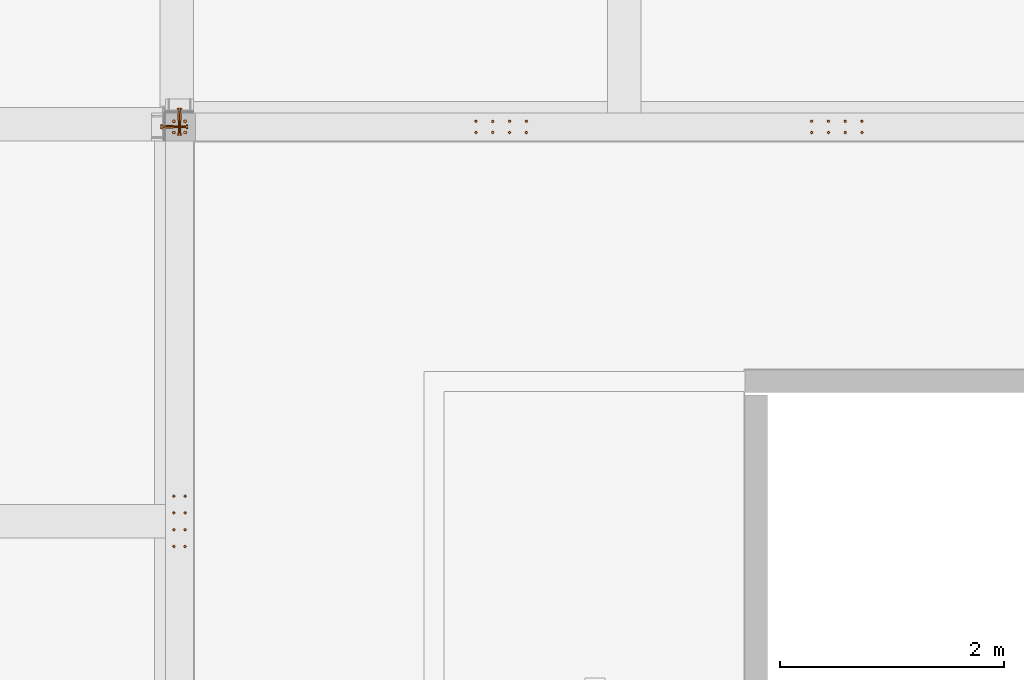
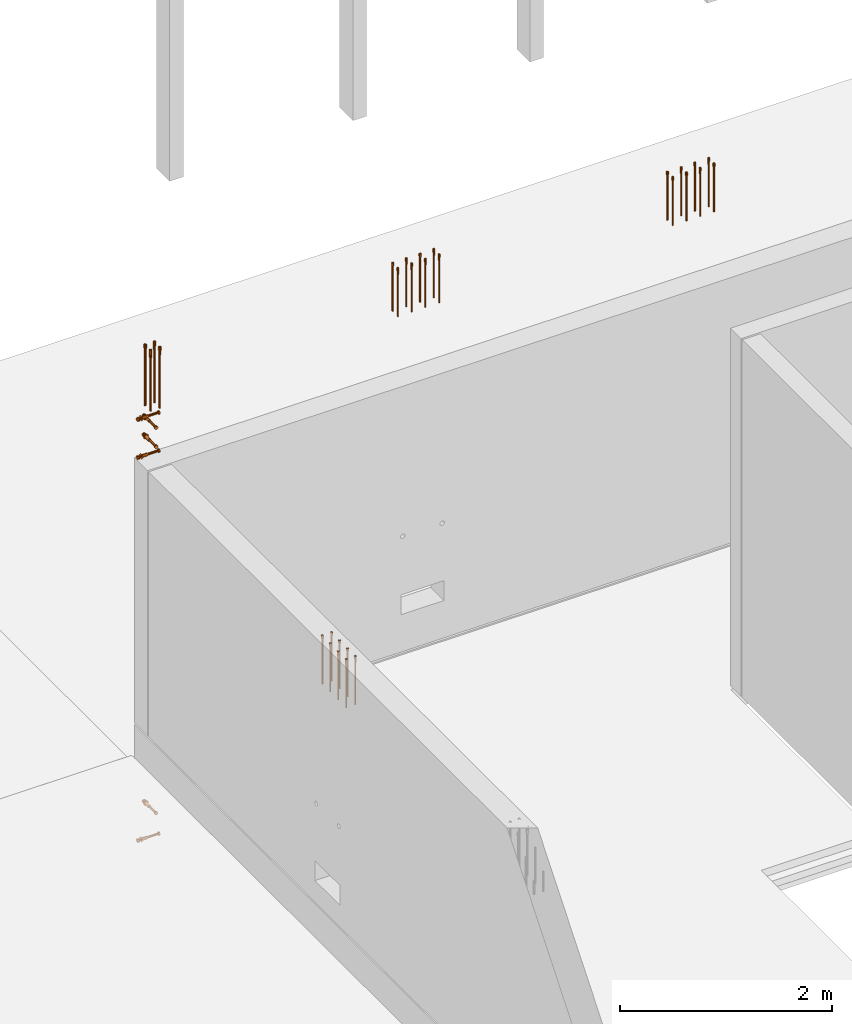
# One storey, part 15 of 16: 34 proxies.
"""IFC2X3 building model written with IfcOpenShell, lengths in millimetres."""

from ifc_helpers import new_model, entity, si_unit, converted_unit, derived_unit, direction, frame, frame_2d, origin, place, context, subcontext, project, spatial, polyline, circle, outline, extrude, faceted_brep, source, transform, mapped, material, type_object, type_shapes, element, save


model = new_model("IFC2X3")

# Units and contexts
model_context = context("Model", 3, precision=0.01, world=origin(), true_north=direction((6.12303176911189e-17, 1.0)))
body_context = subcontext(model_context, "Body", "Model", "MODEL_VIEW")
ifc_project = project(units=[si_unit("LENGTHUNIT", "METRE", prefix="MILLI"), si_unit("AREAUNIT", "SQUARE_METRE"), si_unit("VOLUMEUNIT", "CUBIC_METRE"), converted_unit("PLANEANGLEUNIT", "DEGREE", entity("IfcRatioMeasure", 0.0174532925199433), si_unit("PLANEANGLEUNIT", "RADIAN"), dimensions=[0, 0, 0, 0, 0, 0, 0]), si_unit("MASSUNIT", "GRAM", prefix="KILO"), derived_unit("MASSDENSITYUNIT", [(si_unit("MASSUNIT", "GRAM", prefix="KILO"), 1), (si_unit("LENGTHUNIT", "METRE"), -3)]), si_unit("TIMEUNIT", "SECOND"), si_unit("FREQUENCYUNIT", "HERTZ"), si_unit("THERMODYNAMICTEMPERATUREUNIT", "DEGREE_CELSIUS"), derived_unit("THERMALTRANSMITTANCEUNIT", [(si_unit("MASSUNIT", "GRAM", prefix="KILO"), 1), (si_unit("THERMODYNAMICTEMPERATUREUNIT", "KELVIN"), -1), (si_unit("TIMEUNIT", "SECOND"), -3)]), derived_unit("VOLUMETRICFLOWRATEUNIT", [(si_unit("LENGTHUNIT", "METRE"), 3), (si_unit("TIMEUNIT", "SECOND"), -1)]), si_unit("ELECTRICCURRENTUNIT", "AMPERE"), si_unit("ELECTRICVOLTAGEUNIT", "VOLT"), si_unit("POWERUNIT", "WATT"), si_unit("FORCEUNIT", "NEWTON", prefix="KILO"), si_unit("ILLUMINANCEUNIT", "LUX"), si_unit("LUMINOUSFLUXUNIT", "LUMEN"), si_unit("LUMINOUSINTENSITYUNIT", "CANDELA"), derived_unit("USERDEFINED", [(si_unit("MASSUNIT", "GRAM", prefix="KILO"), -1), (si_unit("LENGTHUNIT", "METRE"), -2), (si_unit("TIMEUNIT", "SECOND"), 3), (si_unit("LUMINOUSFLUXUNIT", "LUMEN"), 1)]), derived_unit("LINEARVELOCITYUNIT", [(si_unit("LENGTHUNIT", "METRE"), 1), (si_unit("TIMEUNIT", "SECOND"), -1)]), si_unit("PRESSUREUNIT", "PASCAL"), derived_unit("USERDEFINED", [(si_unit("LENGTHUNIT", "METRE"), -2), (si_unit("MASSUNIT", "GRAM", prefix="KILO"), 1), (si_unit("TIMEUNIT", "SECOND"), -2)])], contexts=[model_context])

# Site, building, storey
site_placement = place(None, origin())
site = spatial("IfcSite", under=ifc_project, at=site_placement, Name="Default", CompositionType="ELEMENT")
building_placement = place(site_placement, origin())
building = spatial("IfcBuilding", under=site, at=building_placement, Name="niet gebruiken", CompositionType="ELEMENT")
storey_placement = place(building_placement, frame((0.0, 0.0, 183150.0)))
storey = spatial("IfcBuildingStorey", under=building, at=storey_placement, Name="58 achtenvijftigste verdieping", CompositionType="ELEMENT", Elevation=183150.0)

# Proxies
building_element_proxy_type_1 = type_object("IfcBuildingElementProxyType", Name="Ø16/M20x560", PredefinedType="NOTDEFINED")
shared_shape_1 = source(origin(), body_context, "Body", "SolidModel", [
    extrude(circle(Radius=8.0, at=frame_2d((4.22994972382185e-15, -1.29243565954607e-14), x_axis=(1.0, 0.0))), frame((34.9769027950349, 0.0, -560.0)), (0.0, 0.0, 1.0), 489.0),
    extrude(circle(Radius=8.0, at=frame_2d((4.22994972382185e-15, -1.29243565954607e-14), x_axis=(1.0, 0.0))), frame((34.9769027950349, 0.0, -560.0)), (0.0, 0.0, 1.0), 489.0),
    faceted_brep([(30.380708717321, 11.0961940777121, 0.0), (32.6788057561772, 12.0480970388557, 0.0), (34.9769027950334, 13.0, 0.0), (34.9769027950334, 13.0, -33.0), (32.6788057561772, 12.0480970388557, -33.0), (30.380708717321, 11.0961940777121, -33.0), (28.0826116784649, 10.1442911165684, -33.0), (25.7845146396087, 9.1923881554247, -33.0), (25.7845146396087, 9.1923881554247, 0.0), (28.0826116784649, 10.1442911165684, 0.0), (47.0249998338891, 2.29809703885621, 0.0), (47.9769027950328, 0.0, 0.0), (47.9769027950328, 0.0, -33.0), (47.1698993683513, 1.94827861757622, -33.0), (46.0730968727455, 4.59619407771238, -33.0), (45.1211939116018, 6.89429111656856, -33.0), (44.1692909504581, 9.19238815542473, -33.0), (44.1692909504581, 9.19238815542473, 0.0), (45.1211939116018, 6.89429111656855, 0.0), (46.0730968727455, 4.59619407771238, 0.0), (23.5909096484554, 3.89655723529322, -33.0), (21.976902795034, 0.0, -33.0), (21.976902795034, 0.0, 0.0), (22.9288057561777, 2.29809703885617, 0.0), (23.8807087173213, 4.59619407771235, 0.0), (24.832611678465, 6.89429111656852, 0.0), (24.6877121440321, 6.54447269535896, -33.0), (39.5730968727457, 11.0961940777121, 0.0), (41.8711939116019, 10.1442911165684, 0.0), (41.8711939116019, 10.1442911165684, -33.0), (39.5730968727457, 11.0961940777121, -33.0), (37.2749998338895, 12.0480970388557, -33.0), (37.2749998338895, 12.0480970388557, 0.0), (46.3628959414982, -3.89655723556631, 0.0), (45.2660934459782, -6.54447269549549, 0.0), (44.1692909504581, -9.19238815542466, 0.0), (44.1692909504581, -9.19238815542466, -33.0), (45.1211939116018, -6.89429111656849, -33.0), (46.0730968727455, -4.59619407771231, -33.0), (47.0249998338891, -2.29809703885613, -33.0), (30.3807087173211, -11.0961940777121, 0.0), (28.0826116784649, -10.1442911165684, 0.0), (25.7845146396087, -9.19238815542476, 0.0), (25.7845146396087, -9.19238815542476, -33.0), (28.0826116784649, -10.1442911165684, -33.0), (30.3807087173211, -11.0961940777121, -33.0), (32.6788057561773, -12.0480970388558, -33.0), (34.9769027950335, -13.0, -33.0), (34.9769027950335, -13.0, 0.0), (32.6788057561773, -12.0480970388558, 0.0), (37.2749998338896, -12.0480970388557, -33.0), (39.5730968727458, -11.096194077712, -33.0), (41.871193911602, -10.1442911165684, -33.0), (41.871193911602, -10.1442911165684, 0.0), (39.5730968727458, -11.096194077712, 0.0), (37.2749998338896, -12.0480970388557, 0.0), (24.832611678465, -6.89429111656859, 0.0), (23.8807087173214, -4.59619407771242, 0.0), (22.9288057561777, -2.29809703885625, 0.0), (22.7839062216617, -1.94827861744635, -33.0), (23.8807087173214, -4.59619407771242, -33.0), (24.832611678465, -6.89429111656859, -33.0), (24.476902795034, 0.0, -38.0), (29.7269027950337, 9.09326673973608, -38.0), (40.2269027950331, 9.0932667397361, -38.0), (45.4769027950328, 0.0, -38.0), (40.2269027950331, -9.09326673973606, -38.0), (29.7269027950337, -9.09326673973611, -38.0), (29.7269027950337, 9.09326673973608, -71.0), (24.476902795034, 0.0, -71.0), (40.2269027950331, 9.0932667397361, -71.0), (45.4769027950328, 0.0, -71.0), (40.2269027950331, -9.09326673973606, -71.0), (29.7269027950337, -9.09326673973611, -71.0), (34.9769027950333, 0.0, -71.0), (34.9769027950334, 0.0, -33.0), (45.4769027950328, 0.0, -33.0), (40.2269027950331, 9.0932667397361, -33.0), (29.7269027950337, 9.09326673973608, -33.0), (24.476902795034, 0.0, -33.0), (40.2269027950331, -9.09326673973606, -33.0), (29.7269027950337, -9.09326673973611, -33.0), (29.7269027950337, 9.09326673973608, 0.0), (24.476902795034, 0.0, 0.0), (40.2269027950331, 9.0932667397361, 0.0), (45.4769027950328, 0.0, 0.0), (40.2269027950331, -9.09326673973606, 0.0), (29.7269027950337, -9.09326673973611, 0.0)], [[[0, 1, 2, 3, 4, 5, 6, 7, 8, 9]], [[10, 11, 12, 13, 14, 15, 16, 17, 18, 19]], [[20, 21, 22, 23, 24, 25, 8, 7, 26]], [[27, 28, 17, 16, 29, 30, 31, 3, 2, 32]], [[33, 34, 35, 36, 37, 38, 39, 12, 11]], [[40, 41, 42, 43, 44, 45, 46, 47, 48, 49]], [[48, 47, 50, 51, 52, 36, 35, 53, 54, 55]], [[43, 42, 56, 57, 58, 22, 21, 59, 60, 61]], [[62, 21, 20, 26, 7]], [[63, 62, 7]], [[63, 7, 6, 5, 4, 3]], [[64, 3, 31, 30, 29, 16]], [[16, 65, 64]], [[65, 16, 15, 14, 13, 12]], [[3, 64, 63]], [[65, 12, 39, 38, 37, 36]], [[66, 65, 36]], [[66, 36, 52, 51, 50, 47]], [[67, 47, 46, 45, 44, 43]], [[43, 62, 67]], [[62, 43, 61, 60, 59, 21]], [[47, 67, 66]], [[62, 63, 68, 69]], [[63, 64, 70, 68]], [[64, 65, 71, 70]], [[65, 66, 72, 71]], [[66, 67, 73, 72]], [[67, 62, 69, 73]], [[70, 71, 74]], [[74, 68, 70]], [[71, 72, 74]], [[73, 74, 72]], [[74, 73, 69]], [[74, 69, 68]], [[75, 76, 77]], [[77, 78, 75]], [[78, 79, 75]], [[75, 80, 76]], [[79, 81, 75]], [[80, 75, 81]], [[78, 82, 83, 79]], [[78, 77, 84, 82]], [[76, 85, 84, 77]], [[80, 86, 85, 76]], [[80, 81, 87, 86]], [[79, 83, 87, 81]], [[85, 11, 10]], [[85, 10, 19]], [[85, 19, 18]], [[85, 18, 17]], [[85, 17, 84]], [[85, 33, 11]], [[85, 34, 33]], [[85, 35, 34]], [[85, 86, 35]], [[86, 53, 35]], [[86, 54, 53]], [[86, 55, 54]], [[86, 48, 55]], [[48, 86, 87]], [[87, 49, 48]], [[87, 40, 49]], [[87, 41, 40]], [[87, 42, 41]], [[87, 83, 42]], [[83, 56, 42]], [[83, 57, 56]], [[83, 58, 57]], [[83, 22, 58]], [[83, 23, 22]], [[83, 24, 23]], [[83, 25, 24]], [[83, 8, 25]], [[83, 82, 8]], [[82, 84, 2]], [[82, 2, 1]], [[82, 1, 0]], [[82, 0, 9]], [[82, 9, 8]], [[84, 17, 28]], [[84, 28, 27]], [[84, 27, 32]], [[84, 32, 2]]]),
])
type_shapes(building_element_proxy_type_1, [shared_shape_1])
for number, where in (
    (1, (138640.023097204, 24625.0, 4420.0)),
    (2, (138790.023097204, 24625.0, 4420.0)),
    (3, (138640.023097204, 24525.0, 4420.0)),
    (4, (138790.023097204, 24525.0, 4420.0)),
    (5, (141640.023097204, 24625.0, 4420.0)),
    (6, (141790.023097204, 24625.0, 4420.0)),
    (7, (141640.023097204, 24525.0, 4420.0)),
    (8, (141790.023097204, 24525.0, 4420.0)),
):
    element("IfcBuildingElementProxy", number, at=place(storey_placement, frame(where)), inside=storey, type_object=building_element_proxy_type_1, Name="GM_Stekanker_DEMU_4010 GV:Ø16/M20x560", ObjectType="Ø16/M20x560", context=body_context, shape_type="MappedRepresentation", body=[
        mapped(shared_shape_1, transform((0.0, 0.0, 0.0), scale=1.0)),
    ])
for number, where, z_axis, x_axis in (
    (9, (135825.0, 20940.023097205, 3095.0), (0.0, 0.0, 1.0), (0.0, 1.0, 0.0)),
    (10, (135825.0, 21090.0230972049, 3095.0), (0.0, 0.0, 1.0), (0.0, 1.0, 0.0)),
    (11, (135925.0, 20940.023097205, 3095.0), (0.0, 0.0, 1.0), (0.0, 1.0, 0.0)),
    (12, (135925.0, 21090.0230972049, 3095.0), (0.0, 0.0, 1.0), (0.0, 1.0, 0.0)),
    (13, (135825.0, 21240.0230972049, 3095.0), (0.0, 0.0, 1.0), (0.0, 1.0, 0.0)),
    (14, (135925.0, 21240.0230972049, 3095.0), (0.0, 0.0, 1.0), (0.0, 1.0, 0.0)),
    (15, (135825.0, 20790.023097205, 3095.0), (0.0, 0.0, 1.0), (0.0, 1.0, 0.0)),
    (16, (135925.0, 20790.023097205, 3095.0), (0.0, 0.0, 1.0), (0.0, 1.0, 0.0)),
):
    element("IfcBuildingElementProxy", number, at=place(storey_placement, frame(where, z_axis=z_axis, x_axis=x_axis)), inside=storey, type_object=building_element_proxy_type_1, Name="GM_Stekanker_DEMU_4010 GV:Ø16/M20x560", ObjectType="Ø16/M20x560", context=body_context, shape_type="MappedRepresentation", body=[
        mapped(shared_shape_1, transform((0.0, 0.0, 0.0), scale=1.0)),
    ])
for number, where in (
    (17, (138940.023097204, 24625.0, 4420.0)),
    (18, (138940.023097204, 24525.0, 4420.0)),
    (19, (138490.023097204, 24625.0, 4420.0)),
    (20, (138490.023097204, 24525.0, 4420.0)),
    (21, (141940.023097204, 24625.0, 4420.0)),
    (22, (141940.023097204, 24525.0, 4420.0)),
    (23, (141490.023097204, 24625.0, 4420.0)),
    (24, (141490.023097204, 24525.0, 4420.0)),
):
    element("IfcBuildingElementProxy", number, at=place(storey_placement, frame(where)), inside=storey, type_object=building_element_proxy_type_1, Name="GM_Stekanker_DEMU_4010 GV:Ø16/M20x560", ObjectType="Ø16/M20x560", context=body_context, shape_type="MappedRepresentation", body=[
        mapped(shared_shape_1, transform((0.0, 0.0, 0.0), scale=1.0)),
    ])
building_element_proxy_type_2 = type_object("IfcBuildingElementProxyType", Name="Ø20/M24x705", PredefinedType="NOTDEFINED")
shared_shape_2 = source(origin(), body_context, "Body", "SolidModel", [
    extrude(circle(Radius=10.0, at=frame_2d((0.0, -1.61554457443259e-14), x_axis=(1.0, 0.0))), frame((34.9769027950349, 0.0, -705.0)), (0.0, 0.0, 1.0), 615.0),
    extrude(circle(Radius=10.0, at=frame_2d((0.0, -1.61554457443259e-14), x_axis=(1.0, 0.0))), frame((34.9769027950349, 0.0, -705.0)), (0.0, 0.0, 1.0), 615.0),
    faceted_brep([(29.3200485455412, 13.6568542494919, 0.0), (32.1484756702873, 14.8284271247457, 0.0), (34.9769027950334, 16.0, 0.0), (34.9769027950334, 16.0, -38.0), (32.1484756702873, 14.8284271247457, -38.0), (29.3200485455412, 13.6568542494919, -38.0), (26.4916214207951, 12.4852813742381, -38.0), (23.663194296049, 11.3137084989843, -38.0), (23.663194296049, 11.3137084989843, 0.0), (26.4916214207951, 12.4852813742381, 0.0), (49.805329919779, 2.82842712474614, 0.0), (50.9769027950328, 0.0, 0.0), (50.9769027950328, 0.0, -38.0), (50.0199937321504, 2.31018283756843, -38.0), (49.7680552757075, 2.91841607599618, -38.0), (48.6337570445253, 5.65685424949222, -38.0), (48.5592077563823, 5.83683215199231, -38.0), (47.4621841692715, 8.48528137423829, -38.0), (46.2906112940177, 11.3137084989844, -38.0), (46.2906112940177, 11.3137084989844, 0.0), (47.4621841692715, 8.48528137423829, 0.0), (48.6337570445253, 5.65685424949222, 0.0), (21.3200485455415, 5.65685424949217, 0.0), (22.4916214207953, 8.48528137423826, 0.0), (22.4916214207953, 8.48528137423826, -38.0), (22.2769576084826, 7.96703708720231, -38.0), (21.3200485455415, 5.65685424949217, -38.0), (20.8907209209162, 4.62036567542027, -38.0), (20.1484756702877, 2.82842712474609, -38.0), (18.976902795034, 0.0, -38.0), (18.976902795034, 0.0, 0.0), (20.1484756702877, 2.82842712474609, 0.0), (40.6337570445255, 13.6568542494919, 0.0), (43.4621841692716, 12.4852813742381, 0.0), (43.4621841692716, 12.4852813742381, -38.0), (40.6337570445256, 13.6568542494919, -38.0), (37.8053299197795, 14.8284271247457, -38.0), (37.8053299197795, 14.8284271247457, 0.0), (49.063084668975, -4.62036567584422, 0.0), (47.6768479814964, -7.96703708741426, 0.0), (46.2906112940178, -11.3137084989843, 0.0), (46.2906112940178, -11.3137084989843, -38.0), (47.4621841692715, -8.48528137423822, -38.0), (48.6337570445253, -5.65685424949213, -38.0), (49.8053299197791, -2.82842712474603, -38.0), (29.3200485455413, -13.6568542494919, 0.0), (26.4916214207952, -12.4852813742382, 0.0), (23.6631942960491, -11.3137084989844, 0.0), (23.6631942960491, -11.3137084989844, -38.0), (26.4916214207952, -12.4852813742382, -38.0), (29.3200485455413, -13.6568542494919, -38.0), (32.1484756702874, -14.8284271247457, -38.0), (34.9769027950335, -16.0, -38.0), (34.9769027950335, -16.0, 0.0), (32.1484756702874, -14.8284271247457, 0.0), (37.8053299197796, -14.8284271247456, -38.0), (40.6337570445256, -13.6568542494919, -38.0), (43.4621841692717, -12.4852813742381, -38.0), (43.4621841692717, -12.4852813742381, 0.0), (40.6337570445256, -13.6568542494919, 0.0), (37.8053299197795, -14.8284271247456, 0.0), (22.4916214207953, -8.48528137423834, 0.0), (21.3200485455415, -5.65685424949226, 0.0), (20.1484756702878, -2.82842712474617, 0.0), (19.9338118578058, -2.31018283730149, -38.0), (20.1857498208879, -2.91841488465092, -38.0), (21.3200485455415, -5.65685424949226, -38.0), (22.4916214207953, -8.48528137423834, -38.0), (25.7845146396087, 9.19238815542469, -52.0), (24.8628969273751, 6.96740617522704, -52.0), (23.9412792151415, 4.7424241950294, -52.0), (22.9590910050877, 2.3712120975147, -52.0), (21.976902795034, 0.0, -52.0), (44.1692909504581, 9.19238815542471, -52.0), (47.9769027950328, 0.0, -52.0), (46.994714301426, 2.37121278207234, -52.0), (46.0730968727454, 4.59619407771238, -52.0), (45.1211939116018, 6.89429111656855, -52.0), (34.9769027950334, 13.0, -52.0), (32.6788057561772, 12.0480970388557, -52.0), (30.380708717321, 11.096194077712, -52.0), (28.0826116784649, 10.1442911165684, -52.0), (37.2749998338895, 12.0480970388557, -52.0), (41.8711939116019, 10.1442911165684, -52.0), (39.5730968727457, 11.0961940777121, -52.0), (44.1692909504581, -9.19238815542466, -52.0), (45.0909086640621, -6.96740617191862, -52.0), (45.3722781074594, -6.28812024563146, -52.0), (46.0125263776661, -4.74242418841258, -52.0), (46.5752652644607, -3.38385233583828, -52.0), (46.9947145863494, -2.37121209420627, -52.0), (28.0826116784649, -10.1442911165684, -52.0), (30.3807087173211, -11.0961940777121, -52.0), (32.6788057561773, -12.0480970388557, -52.0), (34.9769027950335, -13.0, -52.0), (25.7845146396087, -9.19238815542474, -52.0), (37.2749998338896, -12.0480970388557, -52.0), (39.5730968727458, -11.096194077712, -52.0), (41.871193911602, -10.1442911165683, -52.0), (22.9288057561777, -2.29809703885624, -52.0), (23.8807087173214, -4.59619407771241, -52.0), (24.8326116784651, -6.89429111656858, -52.0), (32.6788057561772, 12.0480970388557, -90.0), (30.380708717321, 11.096194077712, -90.0), (28.0826116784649, 10.1442911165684, -90.0), (25.7845146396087, 9.19238815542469, -90.0), (34.9769027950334, 13.0, -90.0), (47.9769027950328, 0.0, -90.0), (47.2760840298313, 1.691926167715, -90.0), (46.0730968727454, 4.59619407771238, -90.0), (45.1211939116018, 6.89429111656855, -90.0), (44.1692909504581, 9.19238815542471, -90.0), (23.3785403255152, 3.38385233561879, -90.0), (21.976902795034, 0.0, -90.0), (24.5815274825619, 6.28812024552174, -90.0), (41.8711939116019, 10.1442911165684, -90.0), (39.5730968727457, 11.0961940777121, -90.0), (37.2749998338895, 12.0480970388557, -90.0), (46.0730968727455, -4.5961940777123, -90.0), (47.0249998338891, -2.29809703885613, -90.0), (44.1692909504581, -9.19238815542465, -90.0), (45.1211939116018, -6.89429111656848, -90.0), (25.7845146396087, -9.19238815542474, -90.0), (28.0826116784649, -10.1442911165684, -90.0), (30.3807087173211, -11.0961940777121, -90.0), (32.6788057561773, -12.0480970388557, -90.0), (34.9769027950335, -13.0, -90.0), (37.2749998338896, -12.0480970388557, -90.0), (39.5730968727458, -11.096194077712, -90.0), (41.871193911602, -10.1442911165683, -90.0), (22.6777215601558, -1.6919261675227, -90.0), (23.8807087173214, -4.59619407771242, -90.0), (24.8326116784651, -6.89429111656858, -90.0), (34.9769027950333, 0.0, -90.0), (34.9769027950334, 0.0, -38.0), (47.9769027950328, 0.0, -38.0), (47.2760840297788, 1.69192616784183, -38.0), (46.0730968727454, 4.59619407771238, -38.0), (45.1211939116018, 6.89429111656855, -38.0), (44.1692909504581, 9.19238815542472, -38.0), (41.8711939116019, 10.1442911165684, -38.0), (39.5730968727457, 11.0961940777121, -38.0), (37.2749998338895, 12.0480970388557, -38.0), (34.9769027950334, 13.0, -38.0), (32.6788057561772, 12.0480970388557, -38.0), (30.380708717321, 11.096194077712, -38.0), (28.0826116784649, 10.1442911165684, -38.0), (25.7845146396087, 9.19238815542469, -38.0), (24.5815274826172, 6.28812024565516, -38.0), (23.3785403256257, 3.38385233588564, -38.0), (21.976902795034, 0.0, -38.0), (22.6777215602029, -1.69192616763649, -38.0), (47.0249998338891, -2.29809703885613, -38.0), (46.0730968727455, -4.59619407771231, -38.0), (45.1211939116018, -6.89429111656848, -38.0), (44.1692909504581, -9.19238815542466, -38.0), (41.871193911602, -10.1442911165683, -38.0), (39.5730968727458, -11.096194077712, -38.0), (37.2749998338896, -12.0480970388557, -38.0), (34.9769027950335, -13.0, -38.0), (23.8807087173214, -4.59619407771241, -38.0), (24.8326116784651, -6.89429111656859, -38.0), (25.7845146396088, -9.19238815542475, -38.0), (28.0826116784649, -10.1442911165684, -38.0), (30.3807087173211, -11.0961940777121, -38.0), (32.6788057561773, -12.0480970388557, -38.0), (32.6788057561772, 12.0480970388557, 0.0), (30.380708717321, 11.096194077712, 0.0), (28.0826116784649, 10.1442911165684, 0.0), (25.7845146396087, 9.19238815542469, 0.0), (34.9769027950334, 13.0, 0.0), (47.9769027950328, 0.0, 0.0), (47.0249998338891, 2.29809703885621, 0.0), (46.0730968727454, 4.59619407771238, 0.0), (45.1211939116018, 6.89429111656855, 0.0), (44.1692909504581, 9.19238815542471, 0.0), (24.832611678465, 6.89429111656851, 0.0), (23.8807087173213, 4.59619407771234, 0.0), (22.9288057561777, 2.29809703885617, 0.0), (21.976902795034, 0.0, 0.0), (37.2749998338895, 12.0480970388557, 0.0), (41.8711939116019, 10.1442911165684, 0.0), (39.5730968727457, 11.0961940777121, 0.0), (44.1692909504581, -9.19238815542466, 0.0), (45.3722781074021, -6.28812024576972, 0.0), (46.5752652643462, -3.38385233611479, 0.0), (32.6788057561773, -12.0480970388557, 0.0), (34.9769027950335, -13.0, 0.0), (25.7845146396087, -9.19238815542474, 0.0), (28.0826116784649, -10.1442911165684, 0.0), (30.3807087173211, -11.0961940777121, 0.0), (37.2749998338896, -12.0480970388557, 0.0), (39.5730968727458, -11.096194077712, 0.0), (41.871193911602, -10.1442911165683, 0.0), (22.9288057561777, -2.29809703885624, 0.0), (23.8807087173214, -4.59619407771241, 0.0), (24.8326116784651, -6.89429111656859, 0.0)], [[[0, 1, 2, 3, 4, 5, 6, 7, 8, 9]], [[10, 11, 12, 13, 14, 15, 16, 17, 18, 19, 20, 21]], [[22, 23, 8, 7, 24, 25, 26, 27, 28, 29, 30, 31]], [[32, 33, 19, 18, 34, 35, 36, 3, 2, 37]], [[38, 39, 40, 41, 42, 43, 44, 12, 11]], [[45, 46, 47, 48, 49, 50, 51, 52, 53, 54]], [[53, 52, 55, 56, 57, 41, 40, 58, 59, 60]], [[48, 47, 61, 62, 63, 30, 29, 64, 65, 66, 67]], [[7, 68, 69, 70, 71, 72, 29, 28, 27, 26, 25, 24]], [[73, 18, 17, 16, 15, 14, 13, 12, 74, 75, 76, 77]], [[4, 3, 78, 79, 80, 81, 68, 7, 6, 5]], [[82, 78, 3, 36, 35, 34, 18, 73, 83, 84]], [[41, 85, 86, 87, 88, 89, 90, 74, 12, 44, 43, 42]], [[91, 92, 93, 94, 52, 51, 50, 49, 48, 95]], [[55, 52, 94, 96, 97, 98, 85, 41, 57, 56]], [[99, 100, 101, 95, 48, 67, 66, 65, 64, 29, 72]], [[102, 103, 104, 105, 68, 81, 80, 79, 78, 106]], [[75, 74, 107, 108, 109, 110, 111, 73, 77, 76]], [[112, 113, 72, 71, 70, 69, 68, 105, 114]], [[84, 83, 73, 111, 115, 116, 117, 106, 78, 82]], [[118, 119, 107, 74, 90, 89, 88, 87, 86, 85, 120, 121]], [[92, 91, 95, 122, 123, 124, 125, 126, 94, 93]], [[94, 126, 127, 128, 129, 120, 85, 98, 97, 96]], [[122, 95, 101, 100, 99, 72, 113, 130, 131, 132]], [[133, 111, 110]], [[133, 110, 109]], [[133, 109, 108]], [[133, 108, 107]], [[133, 107, 119]], [[133, 115, 111]], [[133, 116, 115]], [[133, 117, 116]], [[133, 106, 117]], [[133, 102, 106]], [[133, 103, 102]], [[133, 104, 103]], [[133, 105, 104]], [[133, 114, 105]], [[133, 112, 114]], [[133, 113, 112]], [[133, 119, 118]], [[133, 118, 121]], [[133, 121, 120]], [[133, 120, 129]], [[133, 129, 128]], [[133, 128, 127]], [[133, 127, 126]], [[133, 126, 125]], [[133, 130, 113]], [[133, 131, 130]], [[133, 132, 131]], [[133, 122, 132]], [[133, 125, 124]], [[133, 124, 123]], [[133, 123, 122]], [[134, 135, 136]], [[134, 136, 137]], [[134, 137, 138]], [[134, 138, 139]], [[134, 139, 140]], [[134, 140, 141]], [[134, 141, 142]], [[134, 142, 143]], [[134, 143, 144]], [[134, 144, 145]], [[134, 145, 146]], [[134, 146, 147]], [[134, 147, 148]], [[134, 148, 149]], [[134, 149, 150]], [[134, 150, 151]], [[134, 152, 135]], [[134, 153, 152]], [[134, 154, 153]], [[134, 155, 154]], [[134, 156, 155]], [[134, 157, 156]], [[134, 158, 157]], [[134, 159, 158]], [[134, 151, 160]], [[134, 160, 161]], [[134, 161, 162]], [[134, 162, 163]], [[134, 163, 164]], [[134, 164, 165]], [[134, 165, 159]], [[166, 167, 168, 169, 147, 146, 145, 144, 143, 170]], [[136, 135, 171, 172, 173, 174, 175, 139, 138, 137]], [[148, 147, 169, 176, 177, 178, 179, 150, 149]], [[180, 170, 143, 142, 141, 140, 139, 175, 181, 182]], [[153, 154, 155, 183, 184, 185, 171, 135, 152]], [[186, 187, 159, 165, 164, 163, 162, 188, 189, 190]], [[158, 159, 187, 191, 192, 193, 183, 155, 156, 157]], [[161, 160, 151, 150, 179, 194, 195, 196, 188, 162]], [[171, 11, 10]], [[171, 10, 21]], [[171, 21, 20]], [[171, 20, 19]], [[19, 172, 171]], [[171, 38, 11]], [[171, 39, 38]], [[171, 40, 39]], [[40, 171, 185]], [[40, 185, 184]], [[40, 184, 183]], [[183, 58, 40]], [[183, 59, 58]], [[183, 60, 59]], [[183, 53, 60]], [[53, 183, 193]], [[53, 193, 192]], [[53, 192, 191]], [[53, 191, 187]], [[53, 187, 186]], [[53, 186, 190]], [[53, 190, 189]], [[53, 189, 188]], [[188, 54, 53]], [[188, 45, 54]], [[188, 46, 45]], [[188, 47, 46]], [[47, 188, 196]], [[47, 196, 195]], [[47, 195, 194]], [[47, 194, 179]], [[179, 61, 47]], [[179, 62, 61]], [[179, 63, 62]], [[179, 30, 63]], [[179, 31, 30]], [[179, 22, 31]], [[179, 23, 22]], [[179, 8, 23]], [[8, 179, 178]], [[8, 178, 177]], [[8, 177, 176]], [[8, 176, 169]], [[169, 9, 8]], [[169, 0, 9]], [[169, 1, 0]], [[169, 2, 1]], [[2, 169, 168]], [[2, 168, 167]], [[2, 167, 166]], [[2, 166, 170]], [[2, 170, 180]], [[2, 180, 182]], [[2, 182, 181]], [[2, 181, 175]], [[175, 19, 33]], [[19, 175, 174]], [[175, 33, 32]], [[175, 32, 37]], [[175, 37, 2]], [[19, 174, 173]], [[19, 173, 172]]]),
])
type_shapes(building_element_proxy_type_2, [shared_shape_2])
for number, where in (
    (25, (135790.023097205, 24625.0, 4420.0)),
    (26, (135890.023097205, 24625.0, 4420.0)),
    (27, (135790.023097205, 24525.0, 4420.0)),
    (28, (135890.023097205, 24525.0, 4420.0)),
):
    element("IfcBuildingElementProxy", number, at=place(storey_placement, frame(where)), inside=storey, type_object=building_element_proxy_type_2, Name="GM_Stekanker_DEMU_4010 GV:Ø20/M24x705", ObjectType="Ø20/M24x705", context=body_context, shape_type="MappedRepresentation", body=[
        mapped(shared_shape_2, transform((0.0, 0.0, 0.0), scale=1.0)),
    ])
ifc_material = material(Name="NLRS_h2_staal")
building_element_proxy_type_3 = type_object("IfcBuildingElementProxyType", Name="M24x200", PredefinedType="NOTDEFINED", material=ifc_material)
shared_shape_3 = source(origin(), body_context, "Body", "SweptSolid", [
    extrude(circle(Radius=12.0, at=frame_2d((-3.69272717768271e-16, -5.40254932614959e-14), x_axis=(1.0, 0.0))), frame((0.0, -25.0, 0.0), z_axis=(0.0, 1.0, 0.0), x_axis=(1.0, 0.0, 0.0)), (0.0, 0.0, 1.0), 25.0),
    extrude(circle(Radius=22.0, at=frame_2d((1.74570214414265e-15, -9.90467376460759e-14), x_axis=(1.0, 0.0))), frame((0.0, -29.0, 0.0), z_axis=(0.0, 1.0, 0.0), x_axis=(1.0, 0.0, 0.0)), (0.0, 0.0, 1.0), 3.99999999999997),
    extrude(outline(polyline([(-10.4021724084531, -18.017091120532), (10.4021724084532, -18.017091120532), (20.8043448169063, 0.0), (10.4021724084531, 18.017091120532), (-10.4021724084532, 18.0170911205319), (-20.8043448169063, 0.0), (-10.4021724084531, -18.017091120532)])), frame((-0.029602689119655, -44.0, -0.0170911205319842), z_axis=(0.0, 1.0, 0.0), x_axis=(0.500000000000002, 0.0, 0.866025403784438)), (0.0, 0.0, 1.0), 15.0),
    extrude(outline(polyline([(-10.4021724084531, -18.017091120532), (10.4021724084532, -18.017091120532), (20.8043448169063, 0.0), (10.4021724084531, 18.017091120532), (-10.4021724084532, 18.0170911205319), (-20.8043448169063, 0.0), (-10.4021724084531, -18.017091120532)])), frame((-0.029602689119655, 185.0, -0.0170911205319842), z_axis=(0.0, 1.0, 0.0), x_axis=(0.500000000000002, 0.0, 0.866025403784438)), (0.0, 0.0, 1.0), 15.0),
    extrude(circle(Radius=12.0, at=frame_2d((-3.69272717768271e-16, -5.40254932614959e-14), x_axis=(1.0, 0.0))), frame((0.0, 70.0, 0.0), z_axis=(0.0, 1.0, 0.0), x_axis=(1.0, 0.0, 0.0)), (0.0, 0.0, 1.0), 115.0),
    extrude(circle(Radius=16.0, at=frame_2d((-3.69272717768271e-16, -7.20339910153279e-14), x_axis=(1.0, 0.0))), frame((0.0, 2.0, 0.0), z_axis=(0.0, 1.0, 0.0), x_axis=(1.0, 0.0, 0.0)), (0.0, 0.0, 1.0), 68.0),
    extrude(circle(Radius=28.5, at=frame_2d((1.74570214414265e-15, -1.28310546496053e-13), x_axis=(1.0, 0.0))), frame((0.0, 0.0, 0.0), z_axis=(0.0, 1.0, 0.0), x_axis=(1.0, 0.0, 0.0)), (0.0, 0.0, 1.0), 2.0),
])
type_shapes(building_element_proxy_type_3, [shared_shape_3])
for number, where, z_axis, x_axis, name in (
    (29, (135750.0, 24575.0, -1235.0), (0.0, 0.0, 1.0), (0.0, -1.0, 0.0), "NLRS_28.10_SF_WPB_DEMU 1985 boutanker_gen:M24x200"),
    (30, (135875.0, 24700.0, -935.0), (0.0, 0.0, 1.0), (-1.0, 0.0, 0.0), "NLRS_28.10_SF_WPB_DEMU 1985 boutanker_gen:M24x200"),
    (31, (135750.0, 24575.0, 3625.0), (0.0, 0.0, 1.0), (0.0, -1.0, 0.0), "NLRS_28.10_SF_WPB_DEMU 1985 boutanker_gen:M24x200"),
    (32, (135875.0, 24700.0, 3515.0), (0.0, 0.0, 1.0), (-1.0, 0.0, 0.0), "NLRS_28.10_SF_WPB_DEMU 1985 boutanker_gen:M24x200"),
    (33, (135875.0, 24700.0, 3295.0), (0.0, 0.0, 1.0), (-1.0, 0.0, 0.0), "NLRS_28.10_SF_WPB_DEMU 1985 boutanker_gen:M24x200"),
    (34, (135750.0, 24575.0, 3185.0), (0.0, 0.0, 1.0), (0.0, -1.0, 0.0), "NLRS_28.10_SF_WPB_DEMU 1985 boutanker_gen:M24x200"),
):
    element("IfcBuildingElementProxy", number, at=place(storey_placement, frame(where, z_axis=z_axis, x_axis=x_axis)), inside=storey, type_object=building_element_proxy_type_3, material=ifc_material, Name=name, ObjectType="M24x200", context=body_context, shape_type="MappedRepresentation", body=[
        mapped(shared_shape_3, transform((0.0, 0.0, 0.0), scale=1.0)),
    ])

save(model, "model.ifc")
